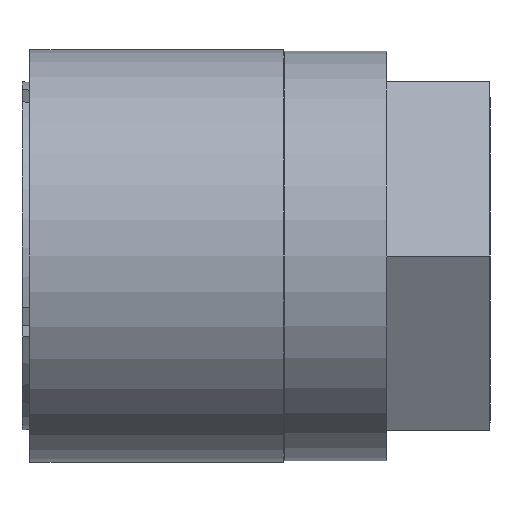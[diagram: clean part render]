
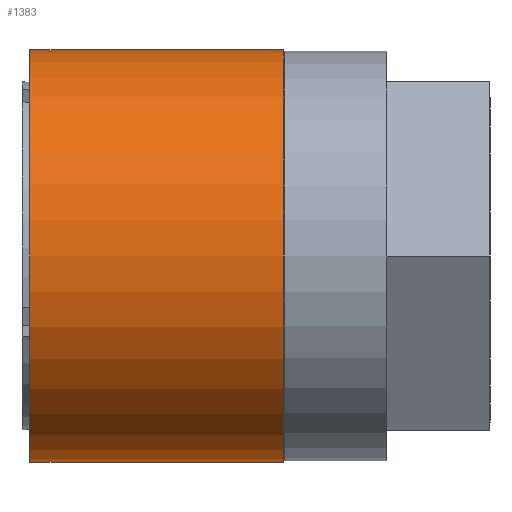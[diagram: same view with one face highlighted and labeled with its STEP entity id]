
A CAD part, front view. The second image highlights one B-rep face of the part: STEP entity #1383.
In plain terms, the highlighted cylindrical face has radius 13 mm (diameter 26 mm), a partial arc.
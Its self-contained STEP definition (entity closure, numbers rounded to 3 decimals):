
#1 = EDGE_CURVE ( 'NONE', #697, #1195, #1877, .T. ) ;
#6 = EDGE_CURVE ( 'NONE', #697, #791, #1876, .T. ) ;
#14 = EDGE_CURVE ( 'NONE', #1195, #852, #1508, .T. ) ;
#25 = AXIS2_PLACEMENT_3D ( 'NONE', #1088, #1085, #1084 ) ;
#86 = AXIS2_PLACEMENT_3D ( 'NONE', #522, #509, #526 ) ;
#255 = EDGE_CURVE ( 'NONE', #791, #852, #402, .T. ) ;
#276 = AXIS2_PLACEMENT_3D ( 'NONE', #1192, #721, #731 ) ;
#402 = CIRCLE ( 'NONE', #25, 13. ) ;
#509 = DIRECTION ( 'NONE',  ( -1., 0., 0. ) ) ;
#522 = CARTESIAN_POINT ( 'NONE',  ( 0., 0., 0. ) ) ;
#526 = DIRECTION ( 'NONE',  ( 0., 0., 1. ) ) ;
#697 = VERTEX_POINT ( 'NONE', #903 ) ;
#721 = DIRECTION ( 'NONE',  ( -1., 0., 0. ) ) ;
#731 = DIRECTION ( 'NONE',  ( 0., 0., 1. ) ) ;
#769 = CARTESIAN_POINT ( 'NONE',  ( 16.5, 0., 13. ) ) ;
#791 = VERTEX_POINT ( 'NONE', #815 ) ;
#811 = CARTESIAN_POINT ( 'NONE',  ( 0.5, 0., 13. ) ) ;
#815 = CARTESIAN_POINT ( 'NONE',  ( 0.5, 0., -13. ) ) ;
#849 = DIRECTION ( 'NONE',  ( -1., 0., 0. ) ) ;
#852 = VERTEX_POINT ( 'NONE', #811 ) ;
#903 = CARTESIAN_POINT ( 'NONE',  ( 16.5, 0., -13. ) ) ;
#1084 = DIRECTION ( 'NONE',  ( 0., 0., 1. ) ) ;
#1085 = DIRECTION ( 'NONE',  ( -1., 0., 0. ) ) ;
#1088 = CARTESIAN_POINT ( 'NONE',  ( 0.5, 0., 0. ) ) ;
#1176 = CARTESIAN_POINT ( 'NONE',  ( 0., 0., 13. ) ) ;
#1177 = DIRECTION ( 'NONE',  ( -1., 0., 0. ) ) ;
#1192 = CARTESIAN_POINT ( 'NONE',  ( 16.5, 0., 0. ) ) ;
#1195 = VERTEX_POINT ( 'NONE', #769 ) ;
#1223 = CARTESIAN_POINT ( 'NONE',  ( 0., 0., -13. ) ) ;
#1238 = CYLINDRICAL_SURFACE ( 'NONE', #86, 13. ) ;
#1312 = FACE_OUTER_BOUND ( 'NONE', #1715, .T. ) ;
#1383 = ADVANCED_FACE ( 'NONE', ( #1312 ), #1238, .T. ) ;
#1507 = VECTOR ( 'NONE', #1177, 1000. ) ;
#1508 = LINE ( 'NONE', #1176, #1507 ) ;
#1521 = VECTOR ( 'NONE', #849, 1000. ) ;
#1655 = ORIENTED_EDGE ( 'NONE', *, *, #255, .F. ) ;
#1656 = ORIENTED_EDGE ( 'NONE', *, *, #14, .T. ) ;
#1657 = ORIENTED_EDGE ( 'NONE', *, *, #1, .T. ) ;
#1658 = ORIENTED_EDGE ( 'NONE', *, *, #6, .F. ) ;
#1715 = EDGE_LOOP ( 'NONE', ( #1658, #1657, #1656, #1655 ) ) ;
#1876 = LINE ( 'NONE', #1223, #1521 ) ;
#1877 = CIRCLE ( 'NONE', #276, 13. ) ;
